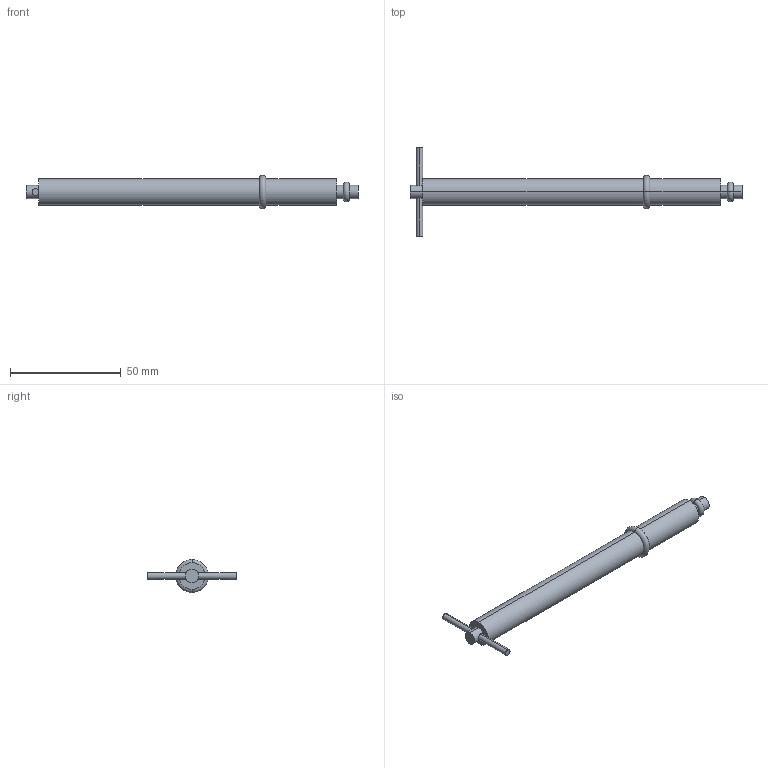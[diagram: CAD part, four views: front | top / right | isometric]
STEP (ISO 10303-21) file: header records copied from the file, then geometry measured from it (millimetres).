
FILE_DESCRIPTION (( 'STEP AP214' ), '1' );
FILE_NAME ('BRWV-112.STEP', '2020-06-23T10:51:49', ( '' ), ( '' ), 'SwSTEP 2.0', 'SolidWorks 2018', '' );
FILE_SCHEMA (( 'AUTOMOTIVE_DESIGN' ));
Length unit declared in the file: millimetre
Products named in the file (1): BRWV-112
Bounding box: 150 x 40 x 15.01 mm (x, y, z)
Volume: 15944.8 mm3; surface area: 6308.7 mm2
Topology: 1 solids, 1 shells, 27 faces, 52 edges, 32 vertices
Faces by surface type: cylinder 16, plane 7, torus 4
Entity records: 820 total; most frequent: CARTESIAN_POINT 212, DIRECTION 136, ORIENTED_EDGE 104, AXIS2_PLACEMENT_3D 60, EDGE_CURVE 52, EDGE_LOOP 32, CIRCLE 32, VERTEX_POINT 32
